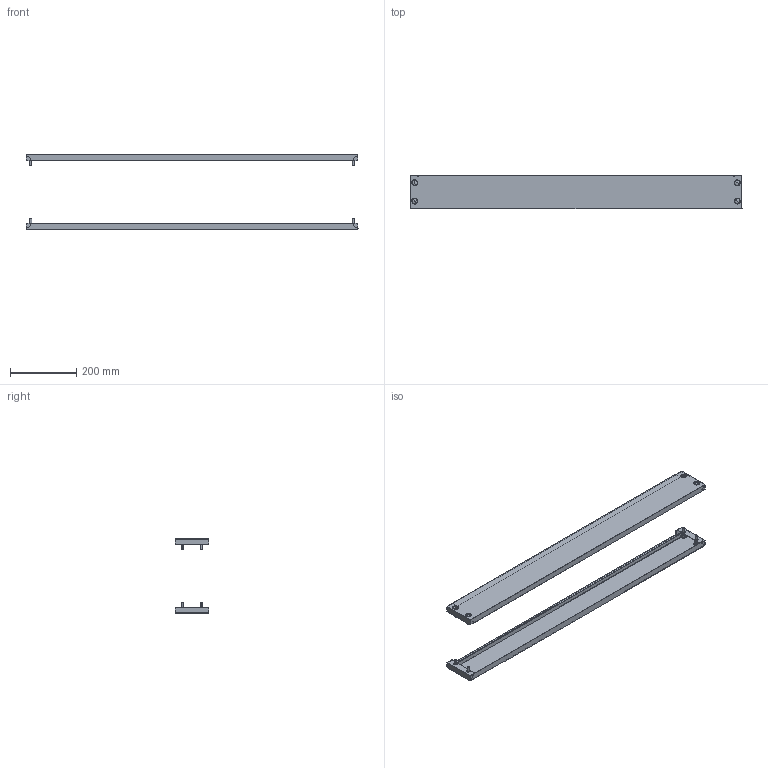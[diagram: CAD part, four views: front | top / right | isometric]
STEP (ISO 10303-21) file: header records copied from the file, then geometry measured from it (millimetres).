
FILE_DESCRIPTION (( 'STEP AP203' ), '1' );
FILE_NAME ('R5FZ1-250.STEP', '2025-06-18T08:40:04', ( '' ), ( '' ), 'SwSTEP 2.0', 'SolidWorks 2022', '' );
FILE_SCHEMA (( 'CONFIG_CONTROL_DESIGN' ));
Length unit declared in the file: millimetre
Products named in the file (5): Plug_11.5-13Д18ЧК_-00; R5FZ1-250; 6 DIN 6798 A Zinc; RB.1055.00.00.0 simple_-04 (1000); M6x16 DIN 912 HX cl.4,8 Zinc_stright
Assembly tree (26 placements, depth 2):
  R5FZ1-250
    RB.1055.00.00.0 simple_-04 (1000)  x2
    M6x16 DIN 912 HX cl.4,8 Zinc_stright  x8
    6 DIN 6798 A Zinc  x8
    Plug_11.5-13Д18ЧК_-00  x8
Bounding box: 999 x 100.05 x 228.5 mm (x, y, z)
Volume: 473580.9 mm3; surface area: 640543.7 mm2
Topology: 26 solids, 26 shells, 1196 faces, 3456 edges, 2112 vertices
Faces by surface type: plane 700, bspline 208, cylinder 128, cone 96, torus 48, sphere 16
Entity records: 9921 total; most frequent: CARTESIAN_POINT 2626, ORIENTED_EDGE 1352, DIRECTION 1188, EDGE_CURVE 676, LINE 448, VECTOR 448, VERTEX_POINT 444, AXIS2_PLACEMENT_3D 370
